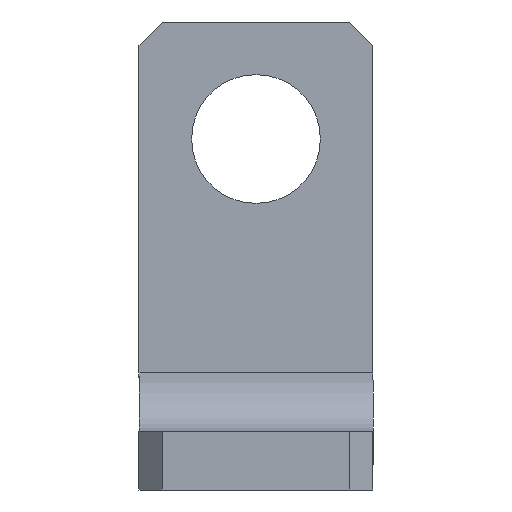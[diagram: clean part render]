
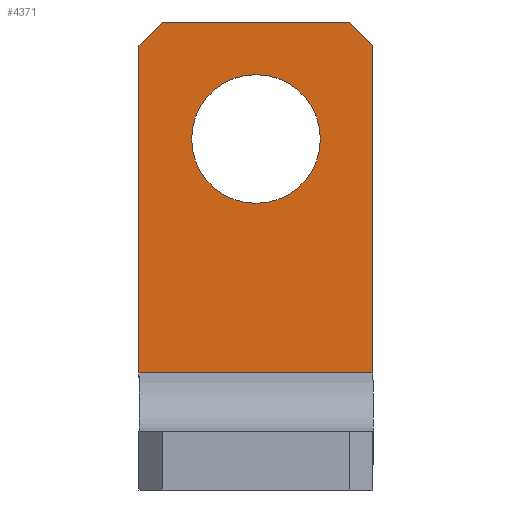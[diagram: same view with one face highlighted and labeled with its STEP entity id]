
A CAD part, left-side view. The second image highlights one B-rep face of the part: STEP entity #4371.
In plain terms, the highlighted planar face has unit normal (-1, 0, 0).
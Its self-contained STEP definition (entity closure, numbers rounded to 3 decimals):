
#3476=CARTESIAN_POINT(' ',(-5.,-10.,10.));
#3477=VERTEX_POINT(' ',#3476);
#3491=CARTESIAN_POINT(' ',(-5.,10.,10.));
#3496=DIRECTION(' ',(0.,-1.,0.));
#3501=VECTOR(' ',#3496,1.);
#3506=LINE('',#3491,#3501);
#3511=CARTESIAN_POINT(' ',(-5.,10.,10.));
#3512=VERTEX_POINT(' ',#3511);
#3516=EDGE_CURVE(' ',#3512,#3477,#3506,.T.);
#3656=CARTESIAN_POINT(' ',(-5.,-10.,38.));
#3657=VERTEX_POINT(' ',#3656);
#3671=CARTESIAN_POINT(' ',(-5.,-10.,10.));
#3676=DIRECTION(' ',(0.,0.,1.));
#3681=VECTOR(' ',#3676,1.);
#3686=LINE('',#3671,#3681);
#3691=EDGE_CURVE(' ',#3477,#3657,#3686,.T.);
#3766=CARTESIAN_POINT(' ',(-5.,10.,38.));
#3771=DIRECTION(' ',(0.,0.,-1.));
#3776=VECTOR(' ',#3771,1.);
#3781=LINE('',#3766,#3776);
#3786=CARTESIAN_POINT(' ',(-5.,10.,38.));
#3787=VERTEX_POINT(' ',#3786);
#3791=EDGE_CURVE(' ',#3787,#3512,#3781,.T.);
#4131=DIRECTION(' ',(-1.,-0.,0.));
#4136=CARTESIAN_POINT(' ',(-5.,-10.,40.));
#4141=DIRECTION(' ',(0.,1.,0.));
#4146=AXIS2_PLACEMENT_3D(' ',#4136,#4131,#4141);
#4151=PLANE('NONE',#4146);
#4156=CARTESIAN_POINT(' ',(-5.,8.,40.));
#4161=DIRECTION(' ',(0.,-1.,0.));
#4166=VECTOR(' ',#4161,1.);
#4171=LINE('',#4156,#4166);
#4176=CARTESIAN_POINT(' ',(-5.,8.,40.));
#4177=VERTEX_POINT(' ',#4176);
#4181=CARTESIAN_POINT(' ',(-5.,-8.,40.));
#4182=VERTEX_POINT(' ',#4181);
#4186=EDGE_CURVE(' ',#4177,#4182,#4171,.T.);
#4191=ORIENTED_EDGE(' ',*,*,#4186,.F.);
#4196=CARTESIAN_POINT(' ',(-5.,8.,40.));
#4201=DIRECTION(' ',(0.,0.707,-0.707));
#4206=VECTOR(' ',#4201,1.);
#4211=LINE('',#4196,#4206);
#4216=EDGE_CURVE(' ',#4177,#3787,#4211,.T.);
#4221=ORIENTED_EDGE(' ',*,*,#4216,.T.);
#4226=ORIENTED_EDGE(' ',*,*,#3791,.T.);
#4231=ORIENTED_EDGE(' ',*,*,#3516,.T.);
#4236=ORIENTED_EDGE(' ',*,*,#3691,.T.);
#4241=CARTESIAN_POINT(' ',(-5.,-10.,38.));
#4246=DIRECTION(' ',(0.,0.707,0.707));
#4251=VECTOR(' ',#4246,1.);
#4256=LINE('',#4241,#4251);
#4261=EDGE_CURVE(' ',#3657,#4182,#4256,.T.);
#4266=ORIENTED_EDGE(' ',*,*,#4261,.T.);
#4271=EDGE_LOOP(' ',(#4191,#4221,#4226,#4231,#4236,#4266));
#4276=FACE_OUTER_BOUND(' ',#4271,.T.);
#4281=CARTESIAN_POINT(' ',(-5.,0.,30.));
#4286=DIRECTION(' ',(-1.,0.,0.));
#4291=DIRECTION(' ',(0.,0.,-1.));
#4296=AXIS2_PLACEMENT_3D(' ',#4281,#4286,#4291);
#4301=CIRCLE('',#4296,5.5);
#4306=CARTESIAN_POINT(' ',(-5.,0.,24.5));
#4307=VERTEX_POINT(' ',#4306);
#4311=CARTESIAN_POINT(' ',(-5.,0.,35.5));
#4312=VERTEX_POINT(' ',#4311);
#4316=EDGE_CURVE(' ',#4307,#4312,#4301,.T.);
#4321=ORIENTED_EDGE(' ',*,*,#4316,.F.);
#4326=CARTESIAN_POINT(' ',(-5.,0.,30.));
#4331=DIRECTION(' ',(-1.,0.,0.));
#4336=DIRECTION(' ',(0.,0.,1.));
#4341=AXIS2_PLACEMENT_3D(' ',#4326,#4331,#4336);
#4346=CIRCLE('',#4341,5.5);
#4351=EDGE_CURVE(' ',#4312,#4307,#4346,.T.);
#4356=ORIENTED_EDGE(' ',*,*,#4351,.F.);
#4361=EDGE_LOOP(' ',(#4321,#4356));
#4366=FACE_BOUND(' ',#4361,.T.);
#4371=ADVANCED_FACE('NONE',(#4276,#4366),#4151,.T.);
